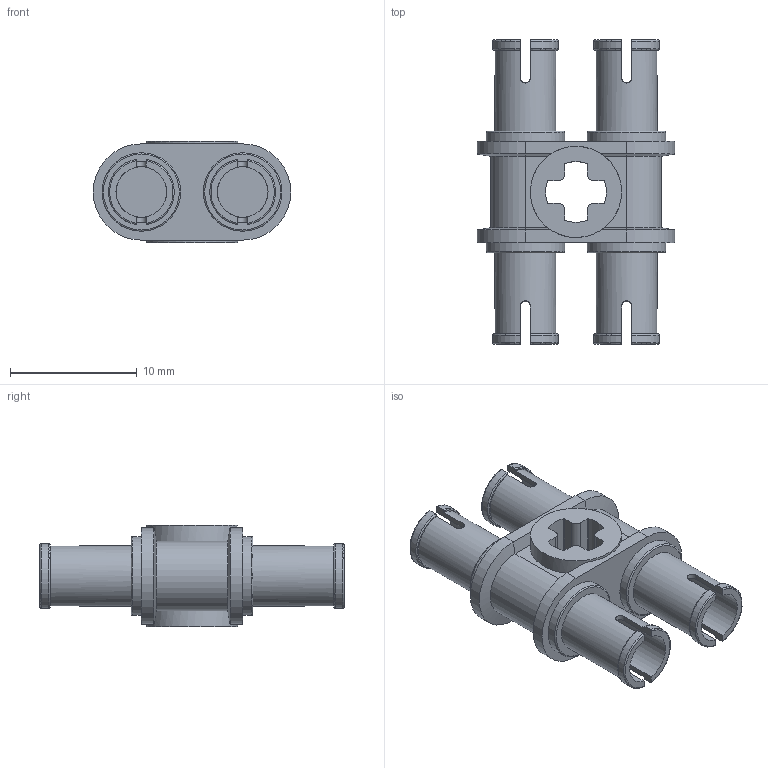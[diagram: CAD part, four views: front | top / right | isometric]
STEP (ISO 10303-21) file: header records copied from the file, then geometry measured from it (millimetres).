
FILE_DESCRIPTION(/* description */ ('Unknown'),/* implementation_level */ '2;1');
FILE_NAME(/* name */ 'Black_4119589_AVV',/* time_stamp */ '2025-07-21T23:44:57+02:00',/* author */ ('Unknown'),/* organization */ ('Unknown'),/* preprocessor_version */ 'ST-DEVELOPER v19.4',/* originating_system */ 'Solid Edge',/* authorisation */ 'Unknown');
FILE_SCHEMA (('AUTOMOTIVE_DESIGN {1 0 10303 214 3 1 1}'));
Length unit declared in the file: millimetre
Products named in the file (1): Black_4119589_AVV
Bounding box: 15.6 x 24 x 8 mm (x, y, z)
Volume: 824.2 mm3; surface area: 1586 mm2
Topology: 1 solids, 1 shells, 144 faces, 382 edges, 248 vertices
Faces by surface type: plane 68, cylinder 52, torus 20, cone 4
Full cylindrical faces by diameter (mm): 4 x4, 4.8 x4, 6.2 x4, 7.2 x2
Entity records: 4394 total; most frequent: CARTESIAN_POINT 897, DIRECTION 726, ORIENTED_EDGE 708, EDGE_CURVE 354, AXIS2_PLACEMENT_3D 275, VERTEX_POINT 238, LINE 176, VECTOR 176
